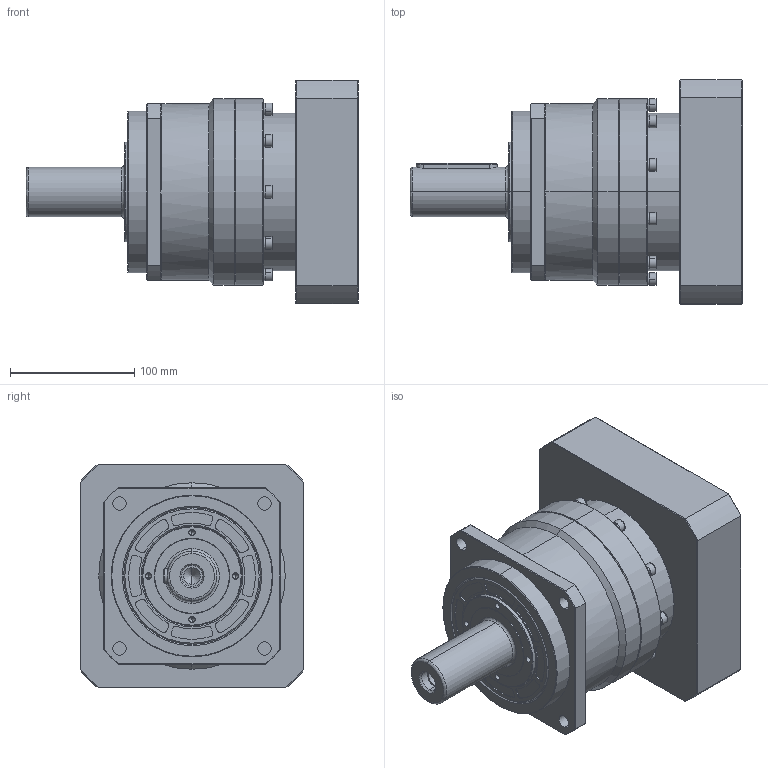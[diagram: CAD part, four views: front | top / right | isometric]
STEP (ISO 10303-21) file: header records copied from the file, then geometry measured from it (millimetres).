
FILE_DESCRIPTION (( 'STEP AP214' ), '1' );
FILE_NAME ('VRB-142-L1-S2-P1 35-114.3-200-M12.STEP', '2023-08-14T04:55:15', ( '微软用户' ), ( '微软中国' ), 'SwSTEP 2.0', 'SolidWorks 2018', '' );
FILE_SCHEMA (( 'AUTOMOTIVE_DESIGN' ));
Length unit declared in the file: millimetre
Products named in the file (12): VRB-142-L1-S2-P1 35-114.3-200-M12; spring lock washers--normal type gb_GB_FASTENER_WASHER_SW 6; 一级整体太阳轮VRB-142-D35外形图; hexagon socket head cap screws gb_GB_FASTENER_SCREWS_HSHCS M10X35-N; spring lock washers--normal type gb_GB_FASTENER_WASHER_SW 8; hexagon socket head cap screws gb_GB_FASTENER_SCREWS_HSHCS M8X30-N; 笢潔楊擘VRB-142俋倛芞; 萇儂楊擘VRB-142-114.3-M12-200F180H47; hex socket set screws with flat point gb_GB_FASTENER_SCREWS_HSFP M16X16-N; hexagon socket head cap screws gb_GB_FASTENER_SCREWS_HSHCS M6X35-N; 標杶D40 VRB-142-35謂蚚; 一级齿圈加出轴VRB-142外形图
Assembly tree (39 placements, depth 2):
  VRB-142-L1-S2-P1 35-114.3-200-M12
    一级齿圈加出轴VRB-142外形图
    笢潔楊擘VRB-142俋倛芞
    萇儂楊擘VRB-142-114.3-M12-200F180H47
    標杶D40 VRB-142-35謂蚚
    spring lock washers--normal type gb_GB_FASTENER_WASHER_SW 6  x10
    hexagon socket head cap screws gb_GB_FASTENER_SCREWS_HSHCS M6X35-N  x10
    spring lock washers--normal type gb_GB_FASTENER_WASHER_SW 8  x6
    hexagon socket head cap screws gb_GB_FASTENER_SCREWS_HSHCS M8X30-N  x6
    hex socket set screws with flat point gb_GB_FASTENER_SCREWS_HSFP M16X16-N
    hexagon socket head cap screws gb_GB_FASTENER_SCREWS_HSHCS M10X35-N
    一级整体太阳轮VRB-142-D35外形图
Bounding box: 267 x 180 x 180 mm (x, y, z)
Volume: 3410228.6 mm3; surface area: 339703.3 mm2
Topology: 39 solids, 39 shells, 1055 faces, 2545 edges, 1573 vertices
Faces by surface type: plane 458, cylinder 382, cone 177, bspline 38
Entity records: 18086 total; most frequent: CARTESIAN_POINT 3643, DIRECTION 3120, ORIENTED_EDGE 2774, EDGE_CURVE 1387, AXIS2_PLACEMENT_3D 1252, VERTEX_POINT 887, EDGE_LOOP 658, CIRCLE 655
